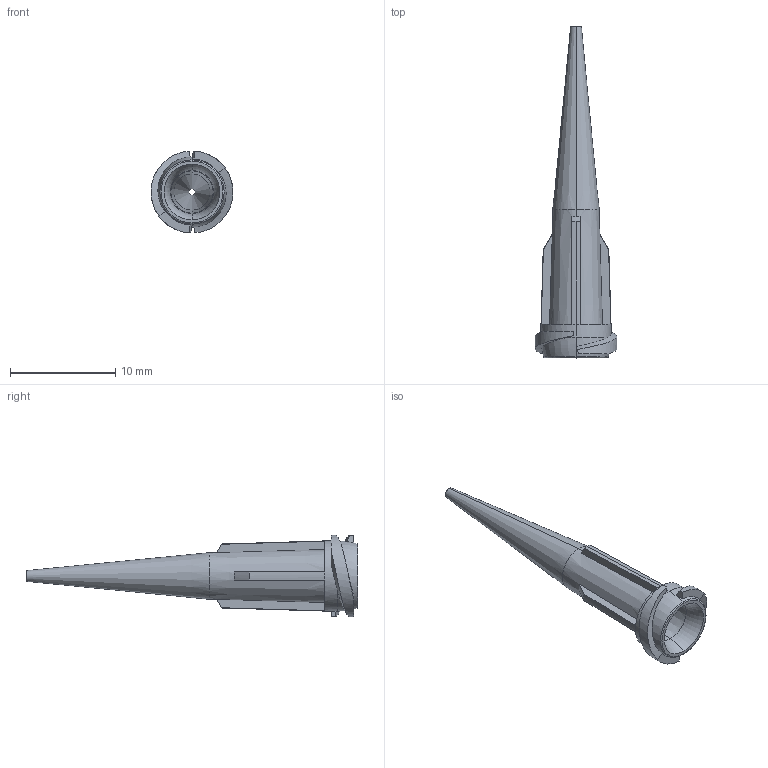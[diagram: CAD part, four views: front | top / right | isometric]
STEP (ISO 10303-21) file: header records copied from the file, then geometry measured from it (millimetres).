
FILE_DESCRIPTION (( 'STEP AP214' ), '1' );
FILE_NAME ('NORDSONEFD-7018208 TIP 20GA RTT 023 PK.STEP', '2019-03-15T14:09:01', ( '' ), ( '' ), 'SwSTEP 2.0', 'SolidWorks 2019', '' );
FILE_SCHEMA (( 'AUTOMOTIVE_DESIGN' ));
Length unit declared in the file: inch
Products named in the file (1): NORDSONEFD-7018208 TIP 20GA RTT 023 PK
Bounding box: 7.77 x 31.5 x 7.77 mm (x, y, z)
Volume: 212.5 mm3; surface area: 771.8 mm2
Topology: 1 solids, 1 shells, 58 faces, 144 edges, 88 vertices
Faces by surface type: plane 22, cone 14, bspline 12, torus 8, cylinder 2
Entity records: 2112 total; most frequent: CARTESIAN_POINT 801, ORIENTED_EDGE 288, DIRECTION 246, EDGE_CURVE 144, AXIS2_PLACEMENT_3D 103, VERTEX_POINT 88, EDGE_LOOP 60, ADVANCED_FACE 58
